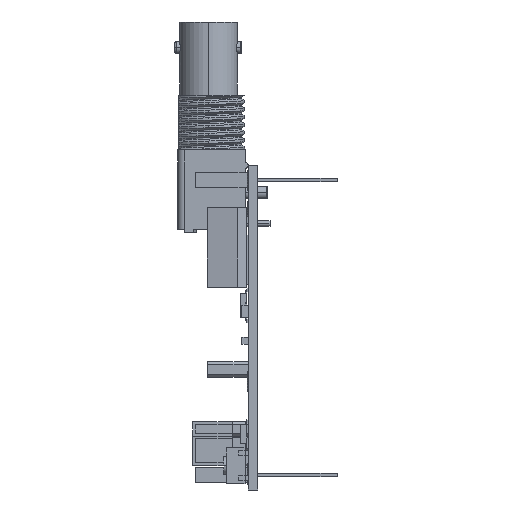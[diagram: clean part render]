
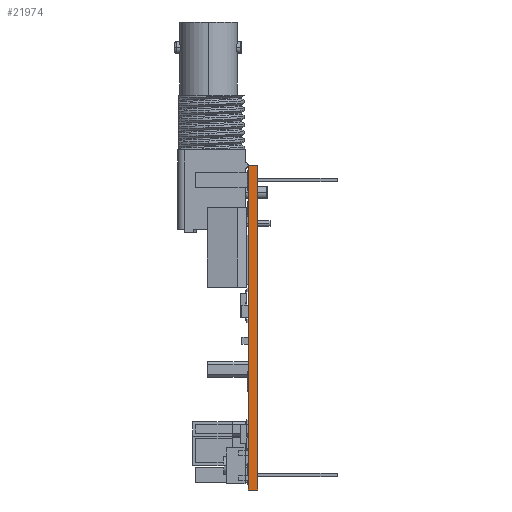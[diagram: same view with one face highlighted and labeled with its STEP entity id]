
A CAD part, left-side view. The second image highlights one B-rep face of the part: STEP entity #21974.
In plain terms, the highlighted planar face has unit normal (-1, 0, 0).
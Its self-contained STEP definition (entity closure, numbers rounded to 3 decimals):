
#101 = DIRECTION ( 'NONE',  ( 0., 0., -1. ) ) ;
#1119 = VECTOR ( 'NONE', #15878, 1000. ) ;
#1416 = EDGE_LOOP ( 'NONE', ( #38267, #37555, #21355, #22770 ) ) ;
#3374 = EDGE_CURVE ( 'NONE', #14089, #17841, #19438, .T. ) ;
#4345 = VERTEX_POINT ( 'NONE', #6923 ) ;
#6923 = CARTESIAN_POINT ( 'NONE',  ( 0., 1.6, -53.3 ) ) ;
#9847 = VECTOR ( 'NONE', #30386, 1000. ) ;
#10484 = CARTESIAN_POINT ( 'NONE',  ( 0., 1.6, -53.3 ) ) ;
#12460 = EDGE_CURVE ( 'NONE', #4345, #14089, #31794, .T. ) ;
#13685 = AXIS2_PLACEMENT_3D ( 'NONE', #54239, #19029, #101 ) ;
#14089 = VERTEX_POINT ( 'NONE', #20408 ) ;
#15878 = DIRECTION ( 'NONE',  ( 0., 0., 1. ) ) ;
#17841 = VERTEX_POINT ( 'NONE', #20420 ) ;
#19029 = DIRECTION ( 'NONE',  ( 1., 0., 0. ) ) ;
#19438 = LINE ( 'NONE', #25987, #30751 ) ;
#20408 = CARTESIAN_POINT ( 'NONE',  ( 0., 0., -53.3 ) ) ;
#20420 = CARTESIAN_POINT ( 'NONE',  ( 0., 0., 0. ) ) ;
#20430 = EDGE_CURVE ( 'NONE', #24357, #17841, #30344, .T. ) ;
#21355 = ORIENTED_EDGE ( 'NONE', *, *, #32606, .F. ) ;
#21974 = ADVANCED_FACE ( 'NONE', ( #40398 ), #32339, .F. ) ;
#22256 = CARTESIAN_POINT ( 'NONE',  ( 0., 1.6, 0. ) ) ;
#22770 = ORIENTED_EDGE ( 'NONE', *, *, #12460, .T. ) ;
#24357 = VERTEX_POINT ( 'NONE', #22256 ) ;
#25191 = CARTESIAN_POINT ( 'NONE',  ( 0., 1.6, 0. ) ) ;
#25987 = CARTESIAN_POINT ( 'NONE',  ( 0., 0., 0. ) ) ;
#26600 = LINE ( 'NONE', #25191, #1119 ) ;
#27527 = VECTOR ( 'NONE', #32875, 1000. ) ;
#29806 = CARTESIAN_POINT ( 'NONE',  ( 0., 1.6, 0. ) ) ;
#30344 = LINE ( 'NONE', #29806, #9847 ) ;
#30386 = DIRECTION ( 'NONE',  ( 0., -1., 0. ) ) ;
#30751 = VECTOR ( 'NONE', #39634, 1000. ) ;
#31794 = LINE ( 'NONE', #10484, #27527 ) ;
#32339 = PLANE ( 'NONE',  #13685 ) ;
#32606 = EDGE_CURVE ( 'NONE', #4345, #24357, #26600, .T. ) ;
#32875 = DIRECTION ( 'NONE',  ( 0., -1., 0. ) ) ;
#37555 = ORIENTED_EDGE ( 'NONE', *, *, #20430, .F. ) ;
#38267 = ORIENTED_EDGE ( 'NONE', *, *, #3374, .T. ) ;
#39634 = DIRECTION ( 'NONE',  ( 0., 0., 1. ) ) ;
#40398 = FACE_OUTER_BOUND ( 'NONE', #1416, .T. ) ;
#54239 = CARTESIAN_POINT ( 'NONE',  ( 0., 1.6, 0. ) ) ;
